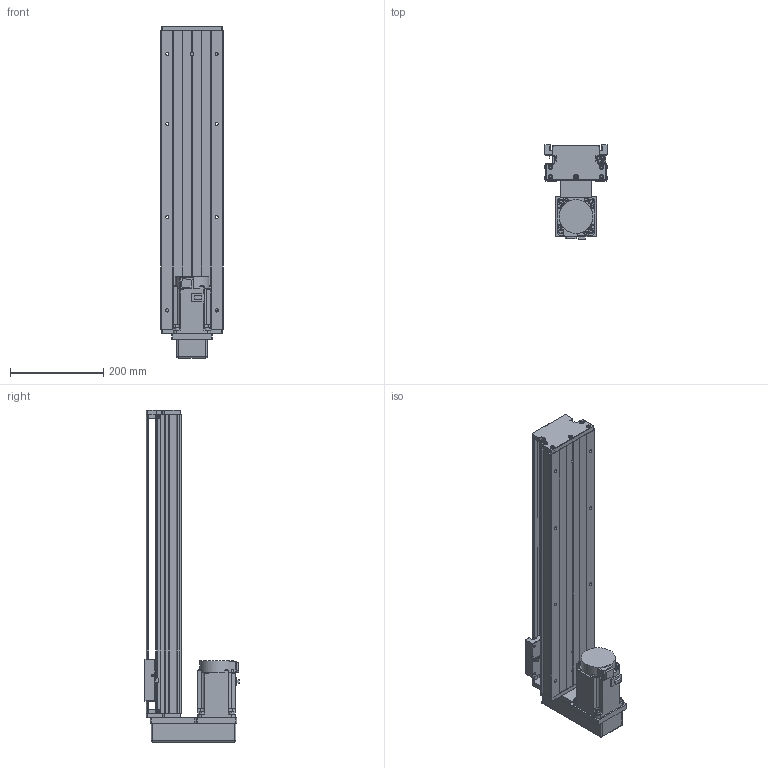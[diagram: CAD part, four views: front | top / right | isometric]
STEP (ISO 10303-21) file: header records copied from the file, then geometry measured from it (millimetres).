
FILE_DESCRIPTION (( 'STEP AP203' ), '1' );
FILE_NAME ('KTH130-500-BM-M75-C4.step', '2023-06-30T04:37:50', ( '微软用户' ), ( '微软中国' ), 'SwSTEP 2.0', 'SolidWorks 2020', '' );
FILE_SCHEMA (( 'CONFIG_CONTROL_DESIGN' ));
Length unit declared in the file: millimetre
Products named in the file (18): GBT77-2000 M3×3; GBT70.1 M5℅16; す晦芛蹟隊 M3℅5; GBT 70.2-M3¡Á5_M3¡Á6; GBT 70.3-M3℅8; GTH14-001_500; CTHA60-017; hg-kn73j_-s100; KTH130-002_KTH130-002; EE_SX911P_R; CTHA86-015-3_CTHA86-015-4; KTH130-004; CTHA60-016; CTHA86-035; KTH130-005; GBT 70.1-M3℅5; KTH130-500-BM-M75-C4; GB1155-6X6
Assembly tree (49 placements, depth 2):
  KTH130-500-BM-M75-C4
    GTH14-001_500
    KTH130-002_KTH130-002
    KTH130-004
    KTH130-005
    GB1155-6X6  x2
    GBT70.1 M5℅16  x10
    GBT 70.2-M3¡Á5_M3¡Á6  x4
    CTHA60-017  x3
    EE_SX911P_R  x3
    CTHA60-016  x2
    GBT 70.1-M3℅5  x6
    GBT77-2000 M3×3  x6
    す晦芛蹟隊 M3℅5  x2
    GBT 70.3-M3℅8  x4
    hg-kn73j_-s100
    CTHA86-015-3_CTHA86-015-4
    CTHA86-035
Bounding box: 135 x 202.8 x 712 mm (x, y, z)
Volume: 4954068.1 mm3; surface area: 715130 mm2
Topology: 52 solids, 52 shells, 2182 faces, 5292 edges, 3311 vertices
Faces by surface type: plane 1206, cylinder 622, cone 238, torus 100, sphere 16
Entity records: 39637 total; most frequent: CARTESIAN_POINT 6672, DIRECTION 6517, ORIENTED_EDGE 6088, EDGE_CURVE 3044, AXIS2_PLACEMENT_3D 2274, LINE 1969, VECTOR 1969, VERTEX_POINT 1945
